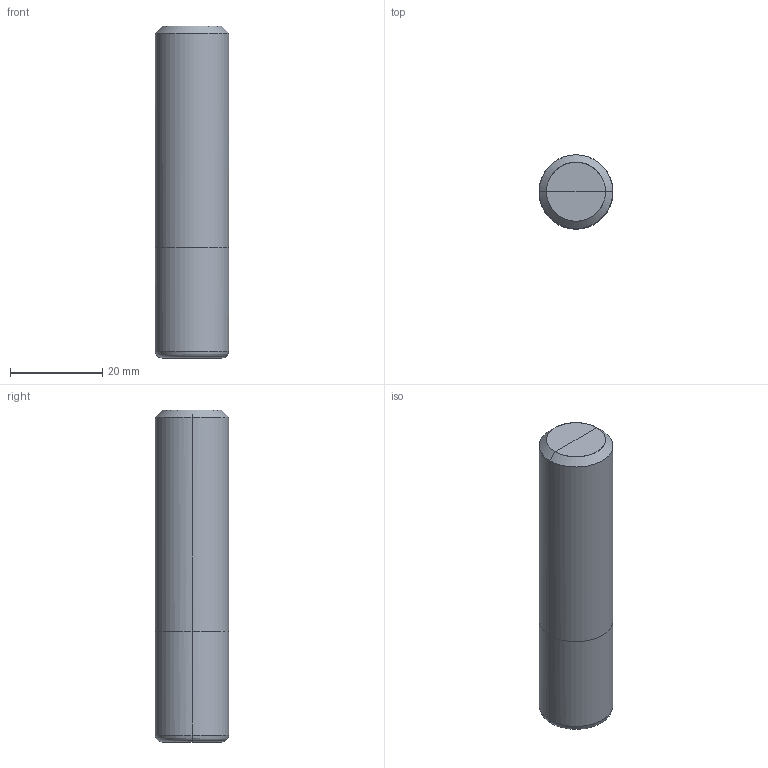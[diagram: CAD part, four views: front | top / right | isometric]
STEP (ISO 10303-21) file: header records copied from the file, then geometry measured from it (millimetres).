
FILE_DESCRIPTION(/* description */ (''),/* implementation_level */ '2;1');
FILE_NAME(/*name*/ '5031-16F-1.5R',/*time_stamp*/'2021-4-28T12:53:24',/*author*/ ('ISBE GmbH'),/*organization*/ ('ISBE GmbH'),/*preprocessor_version*/ 'STEP IO v1.0',/*originating_system*/ '',/*authorisation*/ '');
FILE_SCHEMA (('AUTOMOTIVE_DESIGN'));
Length unit declared in the file: millimetre
Products named in the file (1): Document
Bounding box: 16 x 15.97 x 72 mm (x, y, z)
Surface area: 4345.7 mm2 (no closed solid volume)
Topology: 0 solids, 16 shells, 16 faces, 69 edges, 66 vertices
Faces by surface type: bspline 16
Entity records: 1751 total; most frequent: CARTESIAN_POINT 1444, VERTEX_POINT 56, EDGE_CURVE 56, ORIENTED_EDGE 56, DIRECTION 16, EDGE_LOOP 16, FACE_OUTER_BOUND 16, ADVANCED_FACE 16
